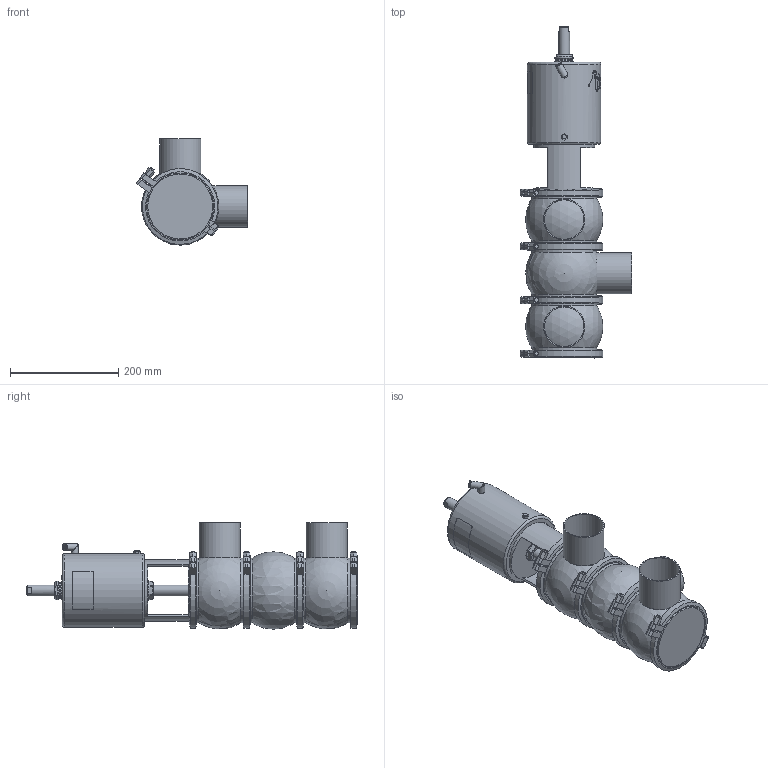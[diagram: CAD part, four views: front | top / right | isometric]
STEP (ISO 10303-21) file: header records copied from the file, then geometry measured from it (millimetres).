
FILE_DESCRIPTION (( 'STEP AP214' ), '1' );
FILE_NAME ('INNOVA L J W OD 3 T3 AS NC_10.241.16.0013.STEP', '2024-08-07T07:51:00', ( '' ), ( '' ), 'SwSTEP 2.0', 'SolidWorks 2023', '' );
FILE_SCHEMA (( 'AUTOMOTIVE_DESIGN' ));
Length unit declared in the file: millimetre
Products named in the file (6): INNOVA L J W OD 3 T3 AS NC_10.241.16.0013; 10.240.15.0001_DN 080; 10.240.15.0010_DN 080; 10.240.15.0014_T3 AS P180; 10.240.15.0006_OD 3"; 10.241.15.0001_DIN 080
Assembly tree (10 placements, depth 2):
  INNOVA L J W OD 3 T3 AS NC_10.241.16.0013
    10.240.15.0006_OD 3"  x3
    10.240.15.0010_DN 080
    10.240.15.0014_T3 AS P180
    10.240.15.0001_DN 080  x4
    10.241.15.0001_DIN 080
Bounding box: 206.43 x 613.63 x 196.5 mm (x, y, z)
Volume: 6930135.7 mm3; surface area: 610323.3 mm2
Topology: 11 solids, 11 shells, 532 faces, 1400 edges, 911 vertices
Faces by surface type: plane 260, cylinder 136, bspline 80, cone 46, sphere 6, torus 4
Full cylindrical faces by diameter (mm): 6.15 x1, 8 x9, 8.5 x1, 10.5 x1, 12.5 x3, 16 x1, 20 x2, 31 x1, 34.5 x2, 36.5 x1, 72.9 x3, 76.2 x3, 113 x1, 120 x7, 132 x8, 136 x1
Entity records: 20396 total; most frequent: CARTESIAN_POINT 11273, ORIENTED_EDGE 1592, DIRECTION 1209, EDGE_CURVE 796, VERTEX_POINT 547, AXIS2_PLACEMENT_3D 460, EDGE_LOOP 399, FACE_OUTER_BOUND 360
